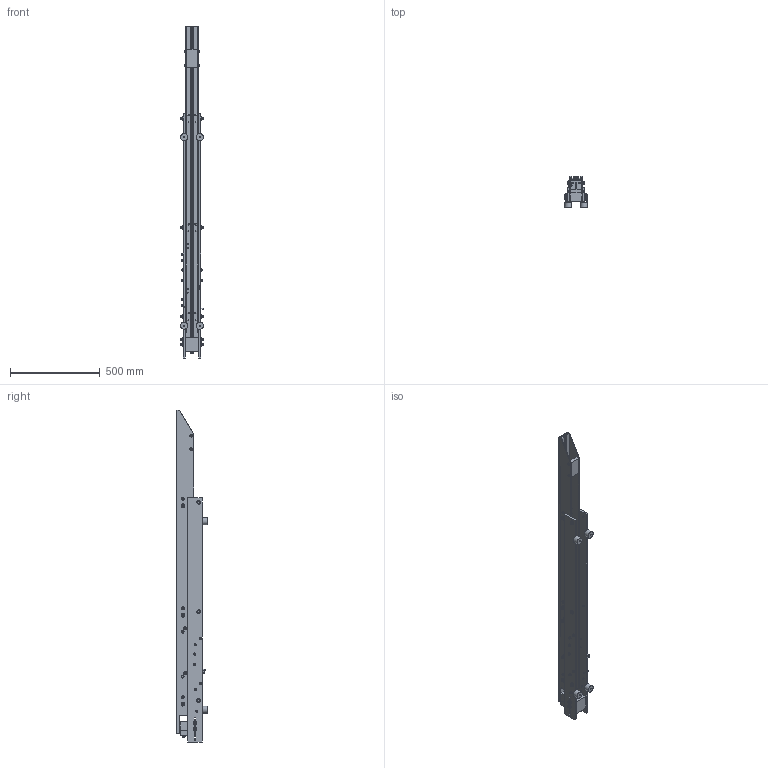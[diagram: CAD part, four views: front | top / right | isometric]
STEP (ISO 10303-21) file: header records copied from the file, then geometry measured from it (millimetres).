
FILE_DESCRIPTION(/* description */ ('STEP AP203'),/* implementation_level */ '2;1');
FILE_NAME(/* name */ 'Linear feeder SLL804-1800 S CE 200V_50Hz',/* time_stamp */ '2024-09-29T17:44:03+02:00',/* author */ ('License CC BY-ND 4.0'),/* organization */ ('CADENAS'),/* preprocessor_version */ 'ST-DEVELOPER v19.3',/* originating_system */ 'PARTsolutions',/* authorisation */ ' ');
FILE_SCHEMA (('CONFIG_CONTROL_DESIGN'));
Length unit declared in the file: millimetre
Products named in the file (5): Linear feeder SLL804-1800 S CE 200V/50Hz; Linear feeder SLL804-1800 S CE 200V/50Hz_PART1; Linear feeder SLL804-1800 S CE 200V/50Hz_PART2; Linear feeder SLL804-1800 S CE 200V/50Hz_PART3; Linear feeder SLL804-1800 S CE 200V/50Hz_PART4
Assembly tree (4 placements, depth 2):
  Linear feeder SLL804-1800 S CE 200V/50Hz
    Linear feeder SLL804-1800 S CE 200V/50Hz_PART1
    Linear feeder SLL804-1800 S CE 200V/50Hz_PART2
    Linear feeder SLL804-1800 S CE 200V/50Hz_PART3
    Linear feeder SLL804-1800 S CE 200V/50Hz_PART4
Bounding box: 127.08 x 172.5 x 1849.1 mm (x, y, z)
Volume: 5953322.9 mm3; surface area: 1656541.2 mm2
Topology: 4 solids, 4 shells, 644 faces, 1481 edges, 973 vertices
Faces by surface type: plane 341, cylinder 172, cone 118, sphere 10, torus 3
Full cylindrical faces by diameter (mm): 5 x3, 5.5 x1, 6 x15, 6.8 x4, 6.88 x1, 7 x1, 8 x18, 8.5 x1, 9 x1, 10 x16, 12 x10, 13 x18, 16 x12, 17 x4, 21 x16, 40 x4
Entity records: 15993 total; most frequent: DIRECTION 2948, CARTESIAN_POINT 2667, ORIENTED_EDGE 2206, AXIS2_PLACEMENT_3D 1222, EDGE_CURVE 1103, EDGE_LOOP 1016, FACE_BOUND 1016, VERTEX_POINT 823
